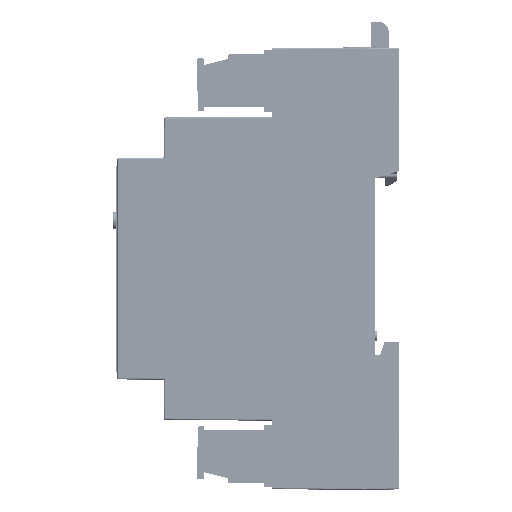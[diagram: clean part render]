
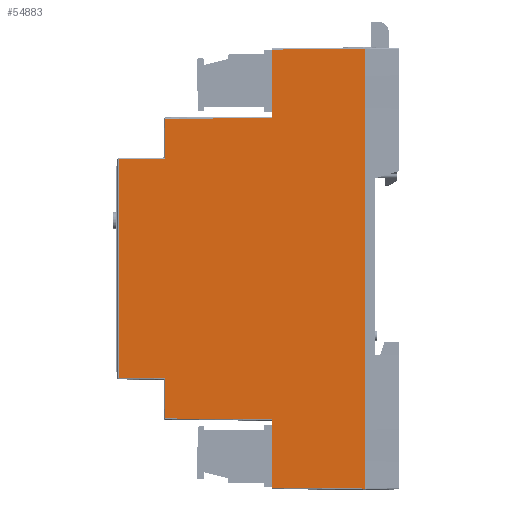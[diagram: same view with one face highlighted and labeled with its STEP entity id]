
A CAD part, left-side view. The second image highlights one B-rep face of the part: STEP entity #54883.
In plain terms, the highlighted planar face has unit normal (-1, 0.009, 0) as drawn and (0, 1, -0.009) by its records, which use the part's own axes.
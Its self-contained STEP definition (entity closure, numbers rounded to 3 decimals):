
#1132 = DIRECTION ( 'NONE',  ( -1., 0., 0. ) ) ;
#2218 = EDGE_LOOP ( 'NONE', ( #42818, #84169, #131459, #121314, #217168, #24191, #9637, #198447, #81631, #230156, #103553, #86695, #201668, #75802, #93989, #111046 ) ) ;
#3255 = CARTESIAN_POINT ( 'NONE',  ( -34316.231, -26211.611, 40.463 ) ) ;
#3533 = CARTESIAN_POINT ( 'NONE',  ( -34316.397, -26211.446, 59.463 ) ) ;
#3968 = EDGE_CURVE ( 'NONE', #66127, #42416, #21178, .T. ) ;
#4100 = CARTESIAN_POINT ( 'NONE',  ( -34249.244, -26211.801, 18.76 ) ) ;
#7066 = LINE ( 'NONE', #21337, #208432 ) ;
#9637 = ORIENTED_EDGE ( 'NONE', *, *, #78171, .F. ) ;
#9929 = CARTESIAN_POINT ( 'NONE',  ( -34376.497, -26211.611, 40.463 ) ) ;
#11763 = CARTESIAN_POINT ( 'NONE',  ( -34376.497, -26211.611, 40.463 ) ) ;
#14504 = EDGE_CURVE ( 'NONE', #37770, #66127, #111377, .T. ) ;
#15413 = VERTEX_POINT ( 'NONE', #160182 ) ;
#15736 = DIRECTION ( 'NONE',  ( -1., 0., 0. ) ) ;
#15862 = VERTEX_POINT ( 'NONE', #147902 ) ;
#20311 = VECTOR ( 'NONE', #196790, 1000. ) ;
#21178 = LINE ( 'NONE', #40145, #27579 ) ;
#21337 = CARTESIAN_POINT ( 'NONE',  ( -34376.497, -26211.446, 59.463 ) ) ;
#22847 = LINE ( 'NONE', #222435, #186617 ) ;
#23489 = CARTESIAN_POINT ( 'NONE',  ( -34293.95, -26211.801, 18.76 ) ) ;
#24191 = ORIENTED_EDGE ( 'NONE', *, *, #14504, .F. ) ;
#27012 = CARTESIAN_POINT ( 'NONE',  ( -34240.897, -26211.611, 40.463 ) ) ;
#27579 = VECTOR ( 'NONE', #217163, 1000. ) ;
#31360 = DIRECTION ( 'NONE',  ( 0., -1., 0.009 ) ) ;
#33986 = EDGE_CURVE ( 'NONE', #207905, #218997, #142716, .T. ) ;
#36836 = CARTESIAN_POINT ( 'NONE',  ( -34249.327, -26211.884, 9.26 ) ) ;
#37770 = VERTEX_POINT ( 'NONE', #57517 ) ;
#40145 = CARTESIAN_POINT ( 'NONE',  ( -34376.497, -26211.884, 9.26 ) ) ;
#42416 = VERTEX_POINT ( 'NONE', #36836 ) ;
#42818 = ORIENTED_EDGE ( 'NONE', *, *, #123149, .F. ) ;
#45273 = CARTESIAN_POINT ( 'NONE',  ( -34232.747, -26211.446, 59.463 ) ) ;
#46965 = EDGE_CURVE ( 'NONE', #86129, #221492, #235067, .T. ) ;
#52651 = CARTESIAN_POINT ( 'NONE',  ( -34226.797, -26211.446, 59.463 ) ) ;
#54824 = VECTOR ( 'NONE', #201116, 1000. ) ;
#54883 = ADVANCED_FACE ( 'NONE', ( #175050 ), #103793, .F. ) ;
#57517 = CARTESIAN_POINT ( 'NONE',  ( -34293.95, -26211.801, 18.76 ) ) ;
#58860 = VERTEX_POINT ( 'NONE', #45273 ) ;
#62427 = EDGE_CURVE ( 'NONE', #81664, #148467, #159950, .T. ) ;
#65818 = CARTESIAN_POINT ( 'NONE',  ( -34376.497, -26211.446, 59.463 ) ) ;
#66127 = VERTEX_POINT ( 'NONE', #147969 ) ;
#66988 = CARTESIAN_POINT ( 'NONE',  ( -34316.697, -26211.446, 59.463 ) ) ;
#72335 = CARTESIAN_POINT ( 'NONE',  ( -34316.697, -26211.446, 59.463 ) ) ;
#73566 = DIRECTION ( 'NONE',  ( 0.009, -0.009, -1. ) ) ;
#75643 = VECTOR ( 'NONE', #1132, 1000. ) ;
#75802 = ORIENTED_EDGE ( 'NONE', *, *, #195309, .F. ) ;
#78171 = EDGE_CURVE ( 'NONE', #15413, #37770, #111329, .T. ) ;
#79460 = DIRECTION ( 'NONE',  ( -1., 0., 0. ) ) ;
#79927 = CARTESIAN_POINT ( 'NONE',  ( -34249.327, -26211.884, 9.26 ) ) ;
#81631 = ORIENTED_EDGE ( 'NONE', *, *, #140013, .F. ) ;
#81664 = VERTEX_POINT ( 'NONE', #116545 ) ;
#84169 = ORIENTED_EDGE ( 'NONE', *, *, #228961, .F. ) ;
#86129 = VERTEX_POINT ( 'NONE', #4100 ) ;
#86695 = ORIENTED_EDGE ( 'NONE', *, *, #33986, .F. ) ;
#87164 = EDGE_CURVE ( 'NONE', #15862, #207905, #7066, .T. ) ;
#90448 = VECTOR ( 'NONE', #227256, 1000. ) ;
#91275 = CARTESIAN_POINT ( 'NONE',  ( -34376.497, -26211.801, 18.76 ) ) ;
#93720 = CARTESIAN_POINT ( 'NONE',  ( -34310.447, -26211.446, 59.463 ) ) ;
#93989 = ORIENTED_EDGE ( 'NONE', *, *, #125158, .F. ) ;
#98461 = DIRECTION ( 'NONE',  ( 1., 0., 0. ) ) ;
#99984 = VECTOR ( 'NONE', #195260, 1000. ) ;
#100117 = LINE ( 'NONE', #9929, #90448 ) ;
#101438 = DIRECTION ( 'NONE',  ( -1., 0., 0. ) ) ;
#101946 = LINE ( 'NONE', #11763, #191785 ) ;
#103553 = ORIENTED_EDGE ( 'NONE', *, *, #106472, .F. ) ;
#103793 = PLANE ( 'NONE',  #122969 ) ;
#106472 = EDGE_CURVE ( 'NONE', #218997, #127043, #229785, .T. ) ;
#111046 = ORIENTED_EDGE ( 'NONE', *, *, #62427, .F. ) ;
#111329 = LINE ( 'NONE', #161276, #187731 ) ;
#111377 = LINE ( 'NONE', #23489, #192999 ) ;
#112683 = LINE ( 'NONE', #72335, #75643 ) ;
#114250 = DIRECTION ( 'NONE',  ( -1., 0., 0. ) ) ;
#116545 = CARTESIAN_POINT ( 'NONE',  ( -34226.963, -26211.611, 40.463 ) ) ;
#121314 = ORIENTED_EDGE ( 'NONE', *, *, #150889, .F. ) ;
#122740 = CARTESIAN_POINT ( 'NONE',  ( -34302.297, -26211.611, 40.463 ) ) ;
#122969 = AXIS2_PLACEMENT_3D ( 'NONE', #65818, #31360, #101438 ) ;
#123149 = EDGE_CURVE ( 'NONE', #222253, #81664, #100117, .T. ) ;
#125114 = LINE ( 'NONE', #197614, #54824 ) ;
#125158 = EDGE_CURVE ( 'NONE', #148467, #58860, #112683, .T. ) ;
#127043 = VERTEX_POINT ( 'NONE', #143054 ) ;
#131459 = ORIENTED_EDGE ( 'NONE', *, *, #46965, .F. ) ;
#134526 = VECTOR ( 'NONE', #73566, 1000. ) ;
#140013 = EDGE_CURVE ( 'NONE', #153967, #154557, #101946, .T. ) ;
#142716 = LINE ( 'NONE', #161723, #176152 ) ;
#143054 = CARTESIAN_POINT ( 'NONE',  ( -34316.397, -26211.446, 59.463 ) ) ;
#143413 = DIRECTION ( 'NONE',  ( 1., 0., 0. ) ) ;
#144668 = DIRECTION ( 'NONE',  ( 1., 0., 0. ) ) ;
#147098 = EDGE_CURVE ( 'NONE', #154557, #15413, #154852, .T. ) ;
#147902 = CARTESIAN_POINT ( 'NONE',  ( -34238.447, -26211.446, 59.463 ) ) ;
#147969 = CARTESIAN_POINT ( 'NONE',  ( -34293.867, -26211.884, 9.26 ) ) ;
#148317 = LINE ( 'NONE', #3533, #134526 ) ;
#148467 = VERTEX_POINT ( 'NONE', #52651 ) ;
#150889 = EDGE_CURVE ( 'NONE', #42416, #86129, #222548, .T. ) ;
#153967 = VERTEX_POINT ( 'NONE', #3255 ) ;
#154557 = VERTEX_POINT ( 'NONE', #204233 ) ;
#154852 = LINE ( 'NONE', #122740, #233238 ) ;
#159950 = LINE ( 'NONE', #214627, #20311 ) ;
#160182 = CARTESIAN_POINT ( 'NONE',  ( -34302.108, -26211.801, 18.76 ) ) ;
#161276 = CARTESIAN_POINT ( 'NONE',  ( -34376.497, -26211.801, 18.76 ) ) ;
#161723 = CARTESIAN_POINT ( 'NONE',  ( -34376.497, -26211.446, 59.463 ) ) ;
#175050 = FACE_OUTER_BOUND ( 'NONE', #2218, .T. ) ;
#176152 = VECTOR ( 'NONE', #15736, 1000. ) ;
#184504 = DIRECTION ( 'NONE',  ( 0.009, 0.009, 1. ) ) ;
#185444 = EDGE_CURVE ( 'NONE', #127043, #153967, #148317, .T. ) ;
#186617 = VECTOR ( 'NONE', #114250, 1000. ) ;
#187731 = VECTOR ( 'NONE', #143413, 1000. ) ;
#191785 = VECTOR ( 'NONE', #98461, 1000. ) ;
#192999 = VECTOR ( 'NONE', #204023, 1000. ) ;
#195226 = DIRECTION ( 'NONE',  ( 0.009, -0.009, -1. ) ) ;
#195260 = DIRECTION ( 'NONE',  ( -1., 0., 0. ) ) ;
#195309 = EDGE_CURVE ( 'NONE', #58860, #15862, #22847, .T. ) ;
#196790 = DIRECTION ( 'NONE',  ( 0.009, 0.009, 1. ) ) ;
#197614 = CARTESIAN_POINT ( 'NONE',  ( -34241.086, -26211.801, 18.76 ) ) ;
#198447 = ORIENTED_EDGE ( 'NONE', *, *, #147098, .F. ) ;
#199193 = CARTESIAN_POINT ( 'NONE',  ( -34304.747, -26211.446, 59.463 ) ) ;
#201116 = DIRECTION ( 'NONE',  ( 0.009, 0.009, 1. ) ) ;
#201668 = ORIENTED_EDGE ( 'NONE', *, *, #87164, .F. ) ;
#204023 = DIRECTION ( 'NONE',  ( 0.009, -0.009, -1. ) ) ;
#204233 = CARTESIAN_POINT ( 'NONE',  ( -34302.297, -26211.611, 40.463 ) ) ;
#207905 = VERTEX_POINT ( 'NONE', #199193 ) ;
#208432 = VECTOR ( 'NONE', #79460, 1000. ) ;
#213601 = VECTOR ( 'NONE', #144668, 1000. ) ;
#214627 = CARTESIAN_POINT ( 'NONE',  ( -34226.963, -26211.611, 40.463 ) ) ;
#215501 = VECTOR ( 'NONE', #184504, 1000. ) ;
#217163 = DIRECTION ( 'NONE',  ( 1., 0., 0. ) ) ;
#217168 = ORIENTED_EDGE ( 'NONE', *, *, #3968, .F. ) ;
#218997 = VERTEX_POINT ( 'NONE', #93720 ) ;
#221492 = VERTEX_POINT ( 'NONE', #228831 ) ;
#222253 = VERTEX_POINT ( 'NONE', #27012 ) ;
#222435 = CARTESIAN_POINT ( 'NONE',  ( -34376.497, -26211.446, 59.463 ) ) ;
#222548 = LINE ( 'NONE', #79927, #215501 ) ;
#227256 = DIRECTION ( 'NONE',  ( 1., 0., 0. ) ) ;
#228831 = CARTESIAN_POINT ( 'NONE',  ( -34241.086, -26211.801, 18.76 ) ) ;
#228961 = EDGE_CURVE ( 'NONE', #221492, #222253, #125114, .T. ) ;
#229785 = LINE ( 'NONE', #66988, #99984 ) ;
#230156 = ORIENTED_EDGE ( 'NONE', *, *, #185444, .F. ) ;
#233238 = VECTOR ( 'NONE', #195226, 1000. ) ;
#235067 = LINE ( 'NONE', #91275, #213601 ) ;
